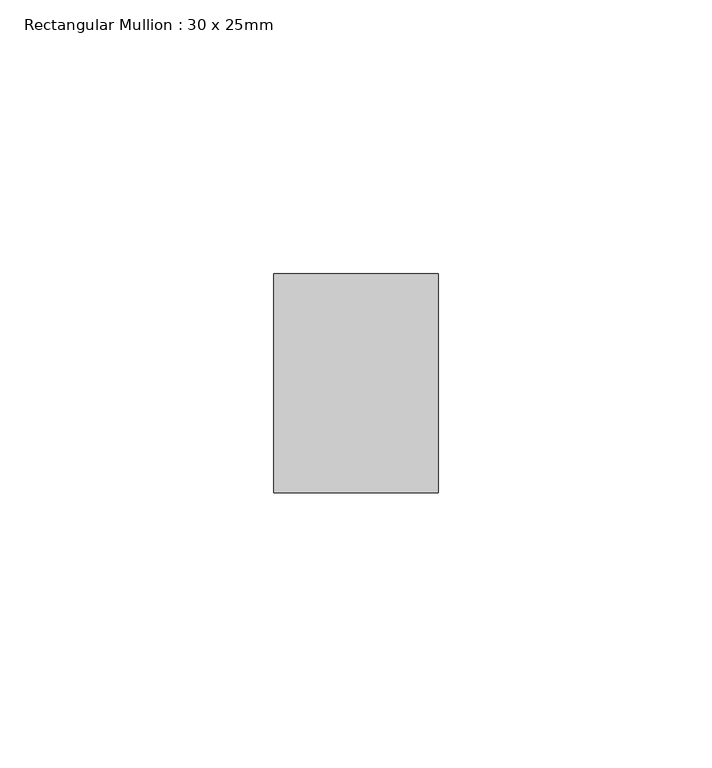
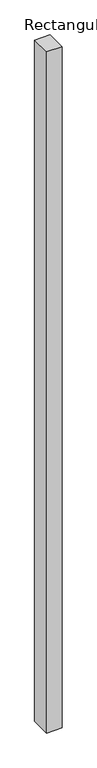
"""IFC4 building model written with IfcOpenShell, lengths in millimetres: member geometry, Rectangular Mullion : 30 x 25mm."""

import ifcopenshell
import ifcopenshell.guid

model = None  # the IFC model being written
_history = None  # IfcOwnerHistory: only IFC2X3 demands one
_inside = {}  # id of a spatial element -> (the spatial element, [elements in it])
_under = {}  # id of a project, library or spatial element -> (it, [spatial elements below it])
_declared = {}  # id of a project -> (the project, [libraries it declares])
_typed = {}  # id of a type object -> (the type object, [elements of that type])
_made_of = {}  # id of a material, layer set ... -> (it, [elements and type objects made of it])


def new_model(schema):
    """Start an empty IFC model of exactly this schema.

    Asked for "IFC4X3", IfcOpenShell would pick the latest addendum, in which some entities
    have other attributes; the version numbers below select the first issue.
    IFC2X3 requires an IfcOwnerHistory on every rooted entity: one is made here for all.
    """
    global model, _history
    if schema == "IFC4X3":
        model = ifcopenshell.file(schema_version=(4, 3, 0, 0))
    else:
        model = ifcopenshell.file(schema=schema)
    _inside.clear()
    _under.clear()
    _declared.clear()
    _typed.clear()
    _made_of.clear()
    _history = None
    if model.schema == "IFC2X3":
        org = make("IfcOrganization", Name="unknown")
        user = make(
            "IfcPersonAndOrganization",
            ThePerson=make("IfcPerson", FamilyName="unknown"),
            TheOrganization=org,
        )
        app = make(
            "IfcApplication",
            ApplicationDeveloper=org,
            Version="unknown",
            ApplicationFullName="unknown",
            ApplicationIdentifier="unknown",
        )
        _history = make(
            "IfcOwnerHistory",
            OwningUser=user,
            OwningApplication=app,
            ChangeAction="ADDED",
            CreationDate=0,
        )
    return model


def make(cls, **values):
    """One entity of the class cls with the attributes given. An attribute that is None is left unset."""
    return model.create_entity(
        cls, **{name: value for name, value in values.items() if value is not None}
    )


def rooted(cls, **values):
    """An entity with a GlobalId (a new one), such as an element, a storey or a relation."""
    return make(cls, GlobalId=ifcopenshell.guid.new(), OwnerHistory=_history, **values)


def si_unit(unit_type, name, prefix=None):
    """IfcSIUnit, for example si_unit("LENGTHUNIT", "METRE", prefix="MILLI")."""
    return make("IfcSIUnit", UnitType=unit_type, Prefix=prefix, Name=name)


def assignment(units):
    """IfcUnitAssignment: the units of a project."""
    return None if units is None else make("IfcUnitAssignment", Units=units)


def point(xyz):
    """IfcCartesianPoint."""
    return None if xyz is None else make("IfcCartesianPoint", Coordinates=xyz)


def direction(xyz):
    """IfcDirection."""
    return None if xyz is None else make("IfcDirection", DirectionRatios=xyz)


def frame(location, z_axis=None, x_axis=None):
    """IfcAxis2Placement3D, a coordinate frame: its origin and axes. An axis left out is left unset."""
    return make(
        "IfcAxis2Placement3D",
        Location=point(location),
        Axis=direction(z_axis),
        RefDirection=direction(x_axis),
    )


def origin():
    """The frame at (0, 0, 0) with its axes left unset."""
    return frame((0.0, 0.0, 0.0))


def place(relative_to, where):
    """IfcLocalPlacement: puts the frame where relative to a parent placement (None: the world)."""
    return make(
        "IfcLocalPlacement", PlacementRelTo=relative_to, RelativePlacement=where
    )


def context(
    kind, dimensions, precision=None, world=None, true_north=None, identifier=None
):
    """IfcGeometricRepresentationContext, for example the 3D "Model" context."""
    return make(
        "IfcGeometricRepresentationContext",
        ContextIdentifier=identifier,
        ContextType=kind,
        CoordinateSpaceDimension=dimensions,
        Precision=precision,
        WorldCoordinateSystem=world,
        TrueNorth=true_north,
    )


def project(units=None, contexts=None):
    """IfcProject with its units and contexts."""
    return rooted(
        "IfcProject",
        Name="project",
        RepresentationContexts=contexts,
        UnitsInContext=assignment(units),
    )


def spatial(cls, under=None, at=None, **own):
    """A site, building, storey or space (cls), placed at a placement, below another one or the project."""
    s = rooted(cls, ObjectPlacement=at, **own)
    if under is not None:
        _under.setdefault(under.id(), (under, []))[1].append(s)
    return s


def polyline(points):
    """IfcPolyline through the points."""
    return make("IfcPolyline", Points=[point(p) for p in points])


def outline(outer, holes=None, kind="AREA"):
    """IfcArbitraryClosedProfileDef: a profile drawn as a closed curve; with holes, ...WithVoids."""
    if holes is None:
        return make("IfcArbitraryClosedProfileDef", ProfileType=kind, OuterCurve=outer)
    return make(
        "IfcArbitraryProfileDefWithVoids",
        ProfileType=kind,
        OuterCurve=outer,
        InnerCurves=holes,
    )


def extrude(swept, where, along, depth):
    """IfcExtrudedAreaSolid: the profile swept, set in the frame where, extruded along a direction by depth."""
    return make(
        "IfcExtrudedAreaSolid",
        SweptArea=swept,
        Position=where,
        ExtrudedDirection=direction(along),
        Depth=depth,
    )


def shape(context_of_items, identifier, shape_type, items):
    """IfcShapeRepresentation: the items that make up one representation, for example the "Body"."""
    return make(
        "IfcShapeRepresentation",
        ContextOfItems=context_of_items,
        RepresentationIdentifier=identifier,
        RepresentationType=shape_type,
        Items=items,
    )


def source(mapping_origin, context_of_items, identifier, shape_type, items):
    """IfcRepresentationMap: a shape defined once, which mapped items show again and again."""
    return make(
        "IfcRepresentationMap",
        MappingOrigin=mapping_origin,
        MappedRepresentation=shape(context_of_items, identifier, shape_type, items),
    )


def transform(
    local_origin,
    x_axis=None,
    y_axis=None,
    z_axis=None,
    scale=None,
    scale2=None,
    scale3=None,
    uniform=True,
):
    """IfcCartesianTransformationOperator3D, or its non-uniform kind. x_axis, y_axis, z_axis: its Axis1, 2, 3."""
    if uniform:
        return make(
            "IfcCartesianTransformationOperator3D",
            Axis1=direction(x_axis),
            Axis2=direction(y_axis),
            LocalOrigin=point(local_origin),
            Scale=scale,
            Axis3=direction(z_axis),
        )
    return make(
        "IfcCartesianTransformationOperator3DnonUniform",
        Axis1=direction(x_axis),
        Axis2=direction(y_axis),
        LocalOrigin=point(local_origin),
        Scale=scale,
        Axis3=direction(z_axis),
        Scale2=scale2,
        Scale3=scale3,
    )


def mapped(mapping_source, mapping_target):
    """IfcMappedItem: shows the shape of a source again, moved by a transform."""
    return make(
        "IfcMappedItem", MappingSource=mapping_source, MappingTarget=mapping_target
    )


def made_of(thing, what):
    """Note that an element or type object is made of a material, layer set ...; save() writes the relation."""
    if what is not None:
        _made_of.setdefault(what.id(), (what, []))[1].append(thing)
    return thing


def element(
    cls,
    number,
    at=None,
    inside=None,
    cuts=None,
    type_object=None,
    material=None,
    context=None,
    identifier="Body",
    shape_type=None,
    held_by="IfcProductDefinitionShape",
    body=None,
    shapes=None,
    **own,
):
    """One element of the class cls, such as IfcWall. Its Tag is "e" and its number.

    at: its placement. inside: the storey or other place that contains it. cuts: it is an
    opening in that element (IfcRelVoidsElement). A single representation is given by context,
    identifier, shape_type and body (its items); several are given by shapes. held_by: the class
    of the entity that holds the representations. save() writes the other relations.
    """
    e = rooted(cls, Tag="e%d" % number, ObjectPlacement=at, **own)
    if body is not None:
        shapes = [shape(context, identifier, shape_type, body)]
    if shapes is not None:
        e.Representation = make(held_by, Representations=shapes)
    if inside is not None:
        _inside.setdefault(inside.id(), (inside, []))[1].append(e)
    if cuts is not None:
        rooted(
            "IfcRelVoidsElement", RelatingBuildingElement=cuts, RelatedOpeningElement=e
        )
    if type_object is not None:
        _typed.setdefault(type_object.id(), (type_object, []))[1].append(e)
    return made_of(e, material)


def aggregate(whole, parts):
    """IfcRelAggregates: a whole, such as a stair, and the parts it consists of."""
    return rooted("IfcRelAggregates", RelatingObject=whole, RelatedObjects=parts)


def save(model, path):
    """Write the relations noted so far, then the file.

    IfcRelAggregates (storeys below a building ...), IfcRelContainedInSpatialStructure (elements
    in a storey), IfcRelDefinesByType, IfcRelAssociatesMaterial and IfcRelDeclares: one each for
    every whole, place, type object, material and project.
    """
    for whole, parts in _under.values():
        aggregate(whole, parts)
    for where, things in _inside.values():
        rooted(
            "IfcRelContainedInSpatialStructure",
            RelatedElements=things,
            RelatingStructure=where,
        )
    for kind, things in _typed.values():
        rooted("IfcRelDefinesByType", RelatedObjects=things, RelatingType=kind)
    for what, things in _made_of.values():
        rooted("IfcRelAssociatesMaterial", RelatedObjects=things, RelatingMaterial=what)
    for by, libraries in _declared.values():
        rooted("IfcRelDeclares", RelatingContext=by, RelatedDefinitions=libraries)
    model.write(path)


def rectangular_mullion_30_x_25mm_fbeda0a6(model_context):
    return source(origin(), model_context, "Body", "SweptSolid", [
        extrude(outline(polyline([(0.0, -20.0), (0.0, -60.0), (-30.0, -60.0), (-30.0, -20.0), (0.0, -20.0)])), frame((0.0, 0.0, -1391.5291075), z_axis=(0.0, 0.0, 1.0), x_axis=(1.0, 0.0, 0.0)), (0.0, 0.0, 1.0), 1391.5291075),
    ])


if __name__ == "__main__":
    model = new_model("IFC4")
    model_context = context("Model", 3, world=origin())
    ifc_project = project(units=[si_unit("LENGTHUNIT", "METRE", prefix="MILLI")], contexts=[model_context])
    site = spatial("IfcSite", under=ifc_project)
    building = spatial("IfcBuilding", under=site)
    placement = place(None, origin())
    rectangular_mullion_30_x_25mm_shape = rectangular_mullion_30_x_25mm_fbeda0a6(model_context)
    element("IfcMember", 1, ObjectType="Rectangular Mullion : 30 x 25mm", at=placement, inside=building, context=model_context, shape_type="MappedRepresentation", body=[
        mapped(rectangular_mullion_30_x_25mm_shape, transform((0.0, 0.0, 0.0), x_axis=(1.0, 0.0, 0.0), y_axis=(0.0, 1.0, 0.0), z_axis=(0.0, 0.0, 1.0))),
    ])
    save(model, "model.ifc")
